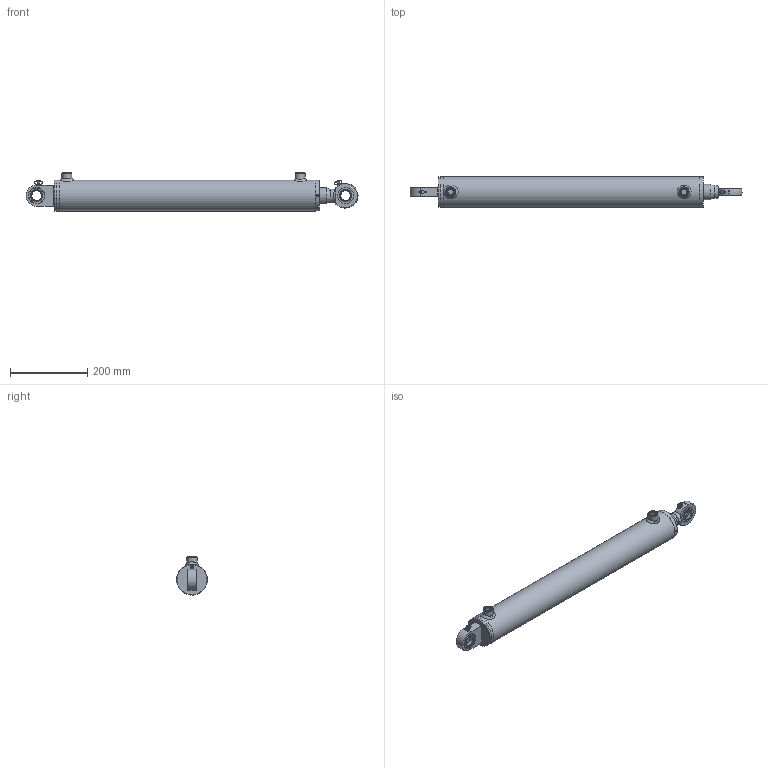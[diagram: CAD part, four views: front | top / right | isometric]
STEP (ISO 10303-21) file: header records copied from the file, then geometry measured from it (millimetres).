
FILE_DESCRIPTION( ( 'Unknown' ), '1' );
FILE_NAME( 'E:/LIBRERIA_3d/CILINDRI/HMB/HMB4400550.stp', 'Unknown', ( 'Unknown' ), ( 'Unknown' ), 'PSStep 17.0.49', 'Unknown', ' ' );
FILE_SCHEMA( ( 'AUTOMOTIVE_DESIGN { 1 0 10303 214 1 1 1 1 }' ) );
Length unit declared in the file: millimetre
Products named in the file (35): CSTSF025N0; An00006001; CSTS025N_CORPO; CSAI002042; CSAI002042-oa0; CT00070027; STL4500550-oa6; Saldatura d'angolo 1-oa4; FTM4500550-oa5; CBSC220600; CSTSF025C0; tsc25c_CORPO; AN00006001; CG08007040; CSTS025N00; CGE0250000; APGR013000; CSTS025C00; cge0250000; HM04400550; Saldatura con preparazione 1-oa2; Saldatura d'angolo 1-oa3; CF00070080; CBS0600000; CDB0002720; APG0600000; SBL4040550; Assem1; Saldatura d'angolo 2-oa1
Assembly tree (32 placements, depth 4):
  Saldatura d'angolo 1-oa4
  Saldatura d'angolo 1-oa4
  Saldatura d'angolo 1-oa3
  Saldatura d'angolo 1-oa3
  Assem1
    APGR013000  x2
    CSTS025N00
      CGE0250000
      APGR013000
      CSTSF025N0
        An00006001
        CSTS025N_CORPO
        CSAI002042
        CSAI002042-oa0
    CSTS025C00
      cge0250000
      APGR013000
      CSTSF025C0
        tsc25c_CORPO
        AN00006001
    HM04400550
      Saldatura con preparazione 1-oa2
      Saldatura con preparazione 1-oa2
      CF00070080
      CBS0600000
      CDB0002720
      APG0600000  x2
      SBL4040550
      CG08007040
        CG08007040
      CT00070027
        CT00070027
      STL4500550-oa6
        FTM4500550-oa5
        CBSC220600
Bounding box: 859.5 x 80 x 99 mm (x, y, z)
Volume: 2070310.9 mm3; surface area: 544046.3 mm2
Topology: 30 solids, 30 shells, 365 faces, 750 edges, 478 vertices
Faces by surface type: plane 138, cylinder 101, torus 45, cone 44, bspline 30, sphere 7
Full cylindrical faces by diameter (mm): 2 x4, 4 x1, 4.25 x1, 5 x12, 6 x4, 7 x2, 8 x4, 9 x4, 14.95 x2, 16 x2, 16.6 x2, 22 x2, 25 x4, 26 x2, 26.4 x1, 27 x5, 33.2 x1, 33.5 x3, 40 x6, 41 x1, 42 x9, 43 x1, 48.6 x1, 50 x2, 64.18 x2, 65 x1, 68.34 x2, 69.9 x1, 70 x1, 70.3 x1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
Entity records: 14240 total; most frequent: CARTESIAN_POINT 5955, DIRECTION 1276, ORIENTED_EDGE 764, AXIS2_PLACEMENT_3D 595, EDGE_LOOP 570, FACE_OUTER_BOUND 448, EDGE_CURVE 382, VERTEX_POINT 346
